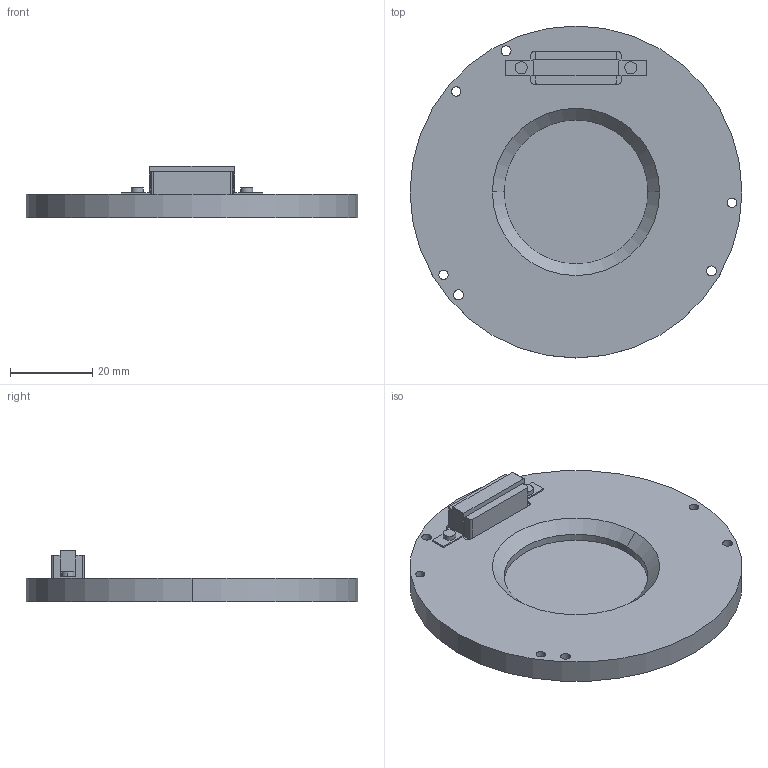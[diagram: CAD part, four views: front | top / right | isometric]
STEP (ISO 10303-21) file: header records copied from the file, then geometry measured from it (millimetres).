
FILE_DESCRIPTION (( 'STEP AP214' ), '1' );
FILE_NAME ('NS35B Dumb.STEP', '2013-07-17T17:49:54', ( 'helen' ), ( 'Microsoft' ), 'SwSTEP 2.0', 'SolidWorks 2010', '' );
FILE_SCHEMA (( 'AUTOMOTIVE_DESIGN' ));
Length unit declared in the file: inch
Products named in the file (1): NS35B Dumb
Bounding box: 80.77 x 80.77 x 12.6 mm (x, y, z)
Volume: 24600.2 mm3; surface area: 12849.8 mm2
Topology: 1 solids, 1 shells, 68 faces, 180 edges, 116 vertices
Faces by surface type: cylinder 32, plane 32, cone 4
Entity records: 2539 total; most frequent: DIRECTION 386, CARTESIAN_POINT 365, ORIENTED_EDGE 360, EDGE_CURVE 180, AXIS2_PLACEMENT_3D 137, VERTEX_POINT 116, VECTOR 112, LINE 112
